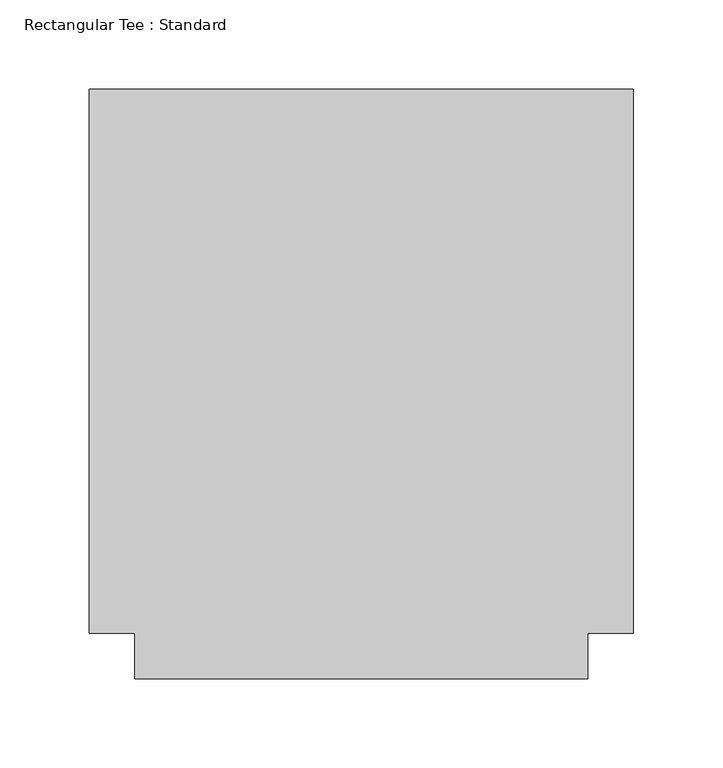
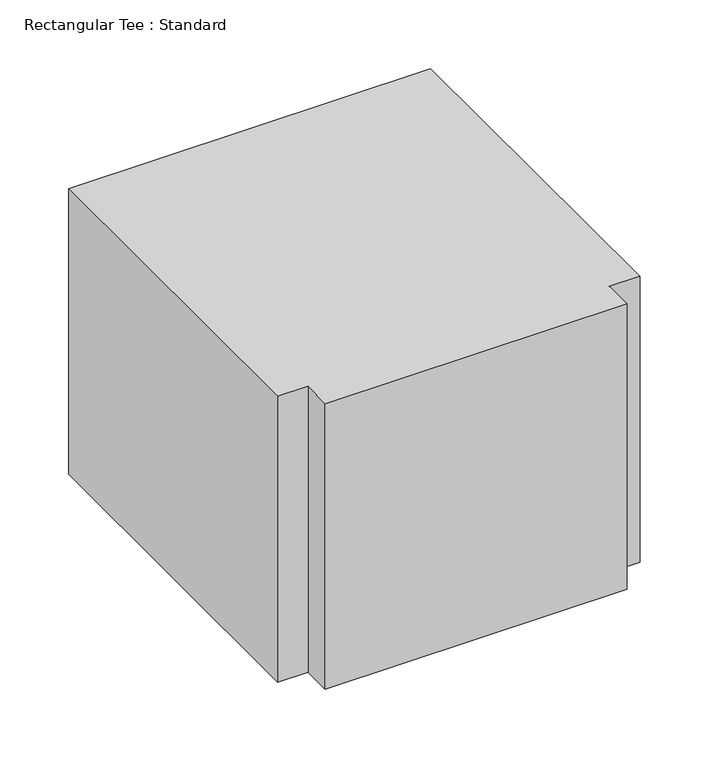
"""IFC4 building model written with IfcOpenShell, lengths in millimetres: duct fitting geometry, Rectangular Tee : Standard."""

from ifc_helpers import new_model, si_unit, frame, origin, place, context, project, spatial, polyline, outline, extrude, source, transform, mapped, element, save


def rectangular_tee_standard_ab376c81(model_context):
    return source(origin(), model_context, "Body", "SweptSolid", [
        extrude(outline(polyline([(-152.4, -152.4), (-152.4, 152.4), (152.4, 152.4), (152.4, -152.4), (127.0, -152.4), (127.0, -177.8), (-127.0, -177.8), (-127.0, -152.4), (-152.4, -152.4)])), frame((0.0, 0.0, -127.0), z_axis=(0.0, 0.0, 1.0), x_axis=(1.0, 0.0, 0.0)), (0.0, 0.0, 1.0), 254.0),
    ])


if __name__ == "__main__":
    model = new_model("IFC4")
    model_context = context("Model", 3, world=origin())
    ifc_project = project(units=[si_unit("LENGTHUNIT", "METRE", prefix="MILLI")], contexts=[model_context])
    site = spatial("IfcSite", under=ifc_project)
    building = spatial("IfcBuilding", under=site)
    placement = place(None, origin())
    rectangular_tee_standard_shape = rectangular_tee_standard_ab376c81(model_context)
    element("IfcDuctFitting", 1, ObjectType="Rectangular Tee : Standard", at=placement, inside=building, context=model_context, shape_type="MappedRepresentation", body=[
        mapped(rectangular_tee_standard_shape, transform((0.0, 0.0, 0.0), x_axis=(1.0, 0.0, 0.0), y_axis=(0.0, 1.0, 0.0), z_axis=(0.0, 0.0, 1.0))),
    ])
    save(model, "model.ifc")
